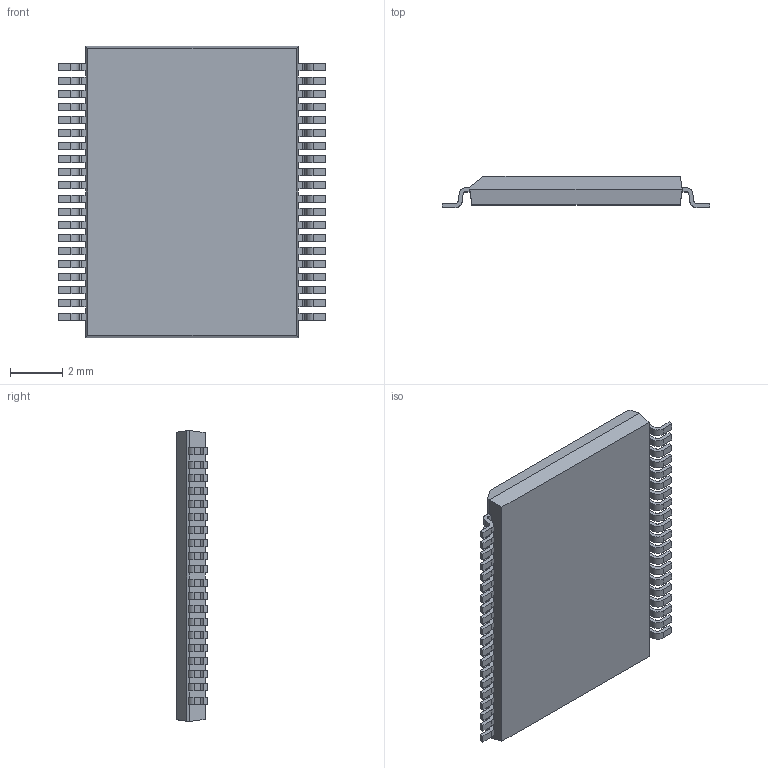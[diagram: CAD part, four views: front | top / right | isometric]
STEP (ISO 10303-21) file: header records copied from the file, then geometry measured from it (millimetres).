
FILE_DESCRIPTION (( 'STEP AP214' ), '1' );
FILE_NAME ('TSSOP50P1000X120-40_MO-153.HB.STEP', '2014-10-29T08:28:11', ( 'Tester2' ), ( '' ), 'SwSTEP 2.0', 'SolidWorks 2012', '' );
FILE_SCHEMA (( 'AUTOMOTIVE_DESIGN' ));
Length unit declared in the file: millimetre
Products named in the file (1): TSSOP50P1000X120-40_MO-153.HB
Bounding box: 10.2 x 1.2 x 11.1 mm (x, y, z)
Volume: 98.6 mm3; surface area: 263.1 mm2
Topology: 1 solids, 1 shells, 534 faces, 1589 edges, 1058 vertices
Faces by surface type: plane 372, cylinder 162
Entity records: 23632 total; most frequent: CARTESIAN_POINT 3182, ORIENTED_EDGE 3178, DIRECTION 2983, EDGE_CURVE 1589, LINE 1265, VECTOR 1265, VERTEX_POINT 1058, AXIS2_PLACEMENT_3D 859
